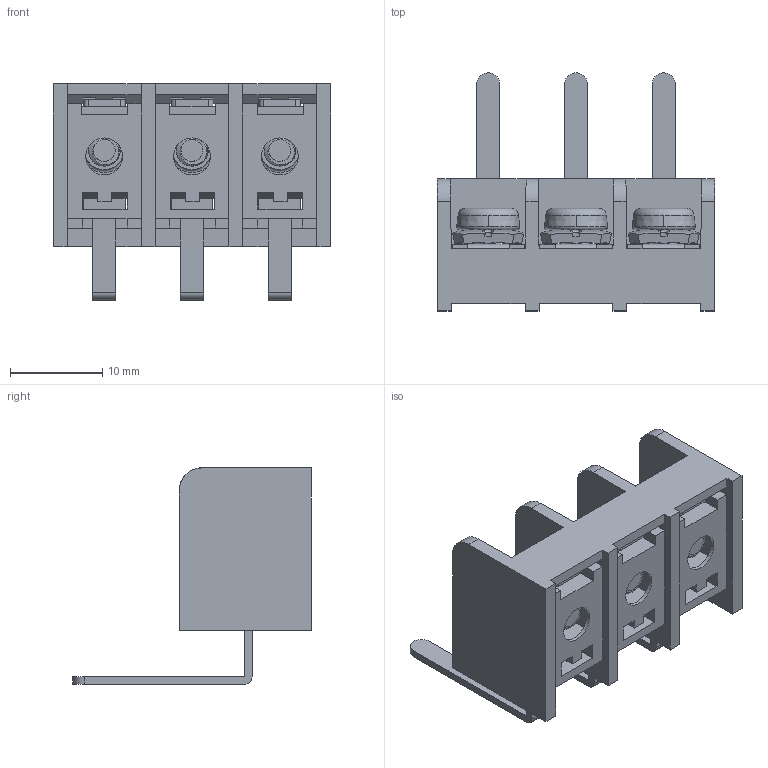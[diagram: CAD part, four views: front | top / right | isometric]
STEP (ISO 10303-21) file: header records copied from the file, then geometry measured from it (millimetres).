
FILE_DESCRIPTION((''),'2;1');
FILE_NAME('3PIN','2021-05-07T',('hanke'),(''),'CREO PARAMETRIC BY PTC INC, 2016260','CREO PARAMETRIC BY PTC INC, 2016260','');
FILE_SCHEMA(('CONFIG_CONTROL_DESIGN'));
Products named in the file (1): 3PIN
Bounding box: 30 x 25.8 x 23.4 mm (x, y, z)
Volume: 3614.8 mm3; surface area: 6238.2 mm2
Topology: 4 solids, 4 shells, 916 faces, 2626 edges, 1694 vertices
Faces by surface type: plane 582, cylinder 145, bspline 141, torus 30, cone 18
Entity records: 47598 total; most frequent: CARTESIAN_POINT 25268, ORIENTED_EDGE 5240, DIRECTION 3796, EDGE_CURVE 2620, VERTEX_POINT 1694, VECTOR 1540, LINE 1540, AXIS2_PLACEMENT_3D 1128
